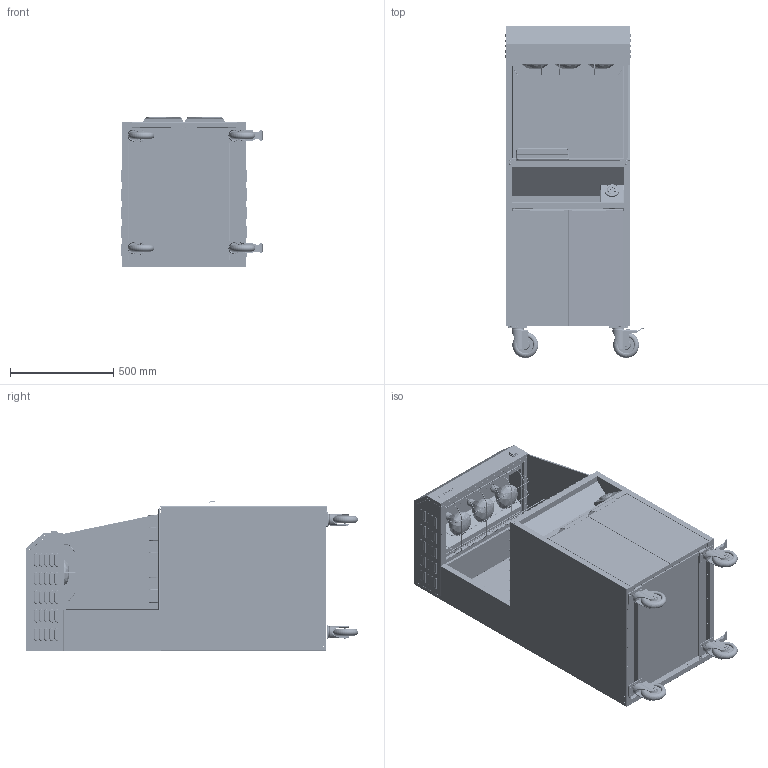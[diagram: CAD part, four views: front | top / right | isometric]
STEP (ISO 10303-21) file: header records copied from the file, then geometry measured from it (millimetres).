
FILE_DESCRIPTION (( 'STEP AP214' ), '1' );
FILE_NAME ('pres-CPDSPM.STEP', '2025-03-19T10:11:23', ( '' ), ( '' ), 'SwSTEP 2.0', 'SolidWorks 2025', '' );
FILE_SCHEMA (( 'AUTOMOTIVE_DESIGN' ));
Length unit declared in the file: millimetre
Products named in the file (1): pres-CPDSPM
Bounding box: 683.18 x 1607.3 x 725.02 mm (x, y, z)
Volume: 13590364.4 mm3; surface area: 20024965.6 mm2
Topology: 113 solids, 113 shells, 8562 faces, 21289 edges, 12922 vertices
Faces by surface type: plane 4268, cylinder 3068, torus 504, cone 430, bspline 280, sphere 12
Entity records: 281978 total; most frequent: CARTESIAN_POINT 70749, DIRECTION 43626, ORIENTED_EDGE 42558, EDGE_CURVE 21279, AXIS2_PLACEMENT_3D 15380, VERTEX_POINT 12922, VECTOR 12866, LINE 12866
